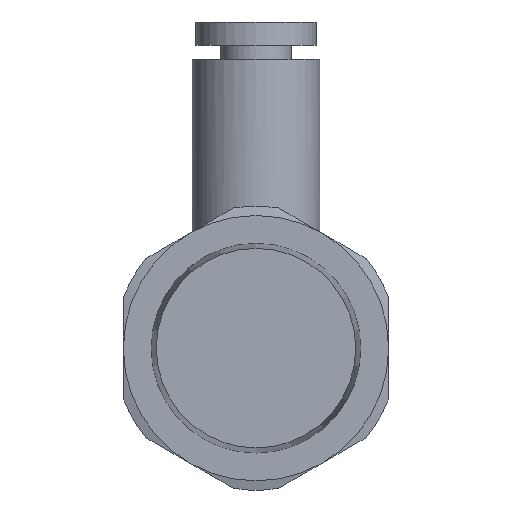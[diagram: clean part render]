
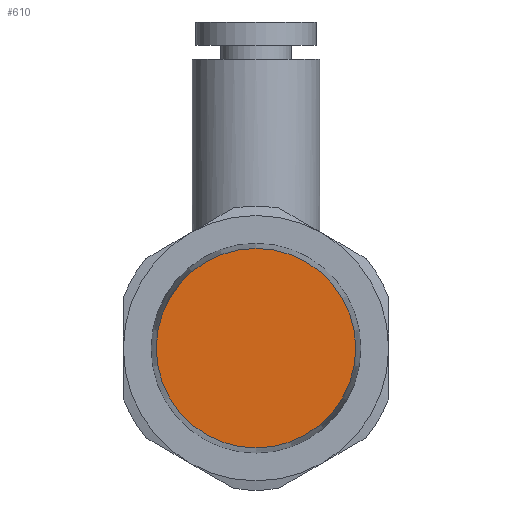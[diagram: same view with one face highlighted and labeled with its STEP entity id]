
A CAD part, front view. The second image highlights one B-rep face of the part: STEP entity #610.
In plain terms, the highlighted planar face has unit normal (0, -1, 0).
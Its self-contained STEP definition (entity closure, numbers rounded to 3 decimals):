
#58=PLANE('',#701);
#221=ORIENTED_EDGE('',*,*,#328,.T.);
#328=EDGE_CURVE('',#389,#389,#425,.T.);
#389=VERTEX_POINT('',#1158);
#425=CIRCLE('',#702,6.391);
#484=EDGE_LOOP('',(#221));
#548=FACE_BOUND('',#484,.T.);
#610=ADVANCED_FACE('',(#548),#58,.F.);
#701=AXIS2_PLACEMENT_3D('',#1156,#869,#870);
#702=AXIS2_PLACEMENT_3D('',#1157,#871,#872);
#869=DIRECTION('',(0.,1.,0.));
#870=DIRECTION('',(0.,0.,1.));
#871=DIRECTION('',(0.,-1.,0.));
#872=DIRECTION('',(0.,0.,-1.));
#1156=CARTESIAN_POINT('',(6.391,-5.5,0.));
#1157=CARTESIAN_POINT('',(0.,-5.5,0.));
#1158=CARTESIAN_POINT('',(0.,-5.5,-6.391));
